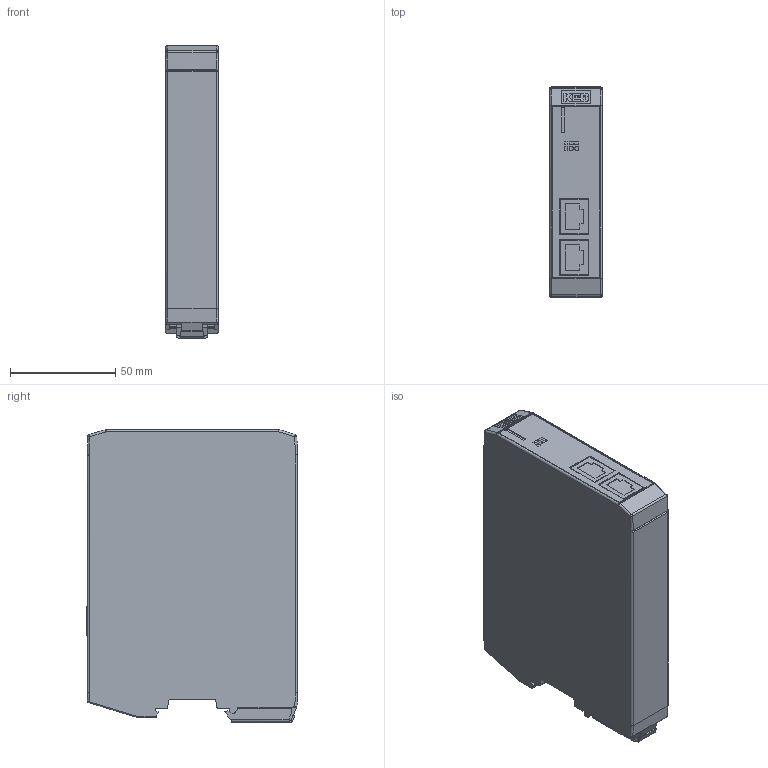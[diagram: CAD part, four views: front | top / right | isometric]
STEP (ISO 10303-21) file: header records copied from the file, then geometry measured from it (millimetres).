
FILE_DESCRIPTION (( 'STEP AP214' ), '1' );
FILE_NAME ('00C6BE1-1001.STEP', '2025-05-12T13:17:32', ( '' ), ( '' ), 'SwSTEP 2.0', 'SolidWorks 2022', '' );
FILE_SCHEMA (( 'AUTOMOTIVE_DESIGN' ));
Length unit declared in the file: millimetre
Products named in the file (1): 00C6BE1-1001
Bounding box: 25 x 100.29 x 139.25 mm (x, y, z)
Volume: 331618.5 mm3; surface area: 38888.8 mm2
Topology: 1 solids, 1 shells, 327 faces, 876 edges, 564 vertices
Faces by surface type: plane 209, cylinder 83, bspline 35
Entity records: 11640 total; most frequent: CARTESIAN_POINT 3653, ORIENTED_EDGE 1736, DIRECTION 1493, EDGE_CURVE 868, VECTOR 649, LINE 649, VERTEX_POINT 564, AXIS2_PLACEMENT_3D 422
